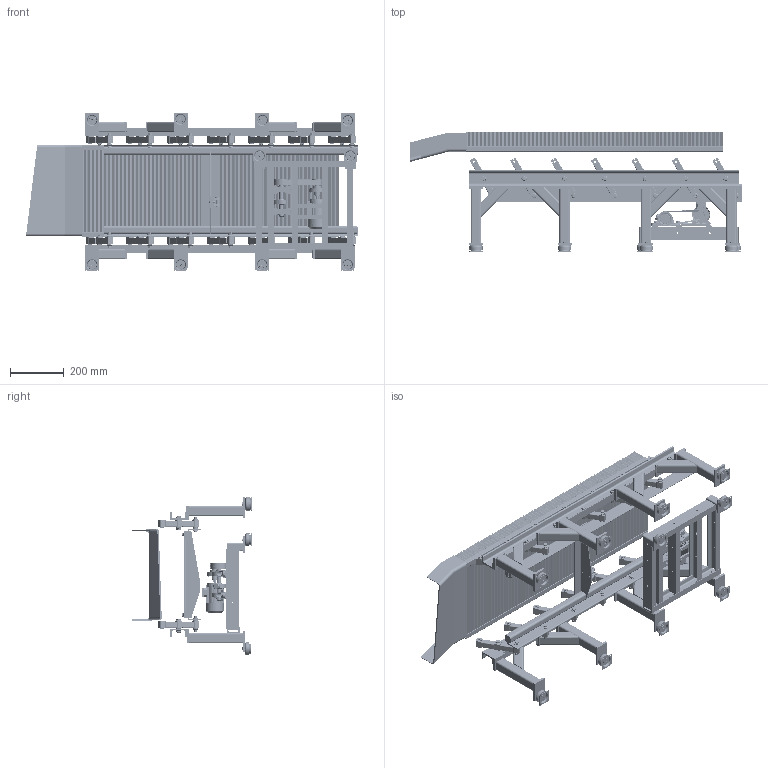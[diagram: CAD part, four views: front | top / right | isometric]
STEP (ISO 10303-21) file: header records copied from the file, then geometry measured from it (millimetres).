
FILE_DESCRIPTION(/* description */ (''),/* implementation_level */ '2;1');
FILE_NAME(/* name */ 'beltconveyor_a024_w300_l1000.stp',/* time_stamp */ '2024-12-16T22:04:19+08:00',/* author */ (''),/* organization */ (''),/* preprocessor_version */ 'ST-DEVELOPER v16.7',/* originating_system */ 'SIEMENS PLM Software NX 12.0',/* authorisation */ '');
FILE_SCHEMA (('AUTOMOTIVE_DESIGN { 1 0 10303 214 3 1 1 1 }'));
Products named in the file (89): Imported_34; Imported_74; Imported_56; Imported_63; Imported_5; Imported_4; Imported_41; Imported_75; Imported_33; Imported_31; Imported_27; Imported_82; Imported_28; Imported_57; Imported_20; Imported_64; Imported_43; Imported_69; Imported_25; Imported_83; Imported_60; Imported_10; 1_2; Imported_23; Imported_54; Imported_7; Imported_2; Imported_44; Imported_68; Imported_16; Imported_67; Imported_81; Imported_73; Imported_76; Imported_18; Imported_65; Imported_12; Imported_8; Imported_19; Imported_58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
Assembly tree (88 placements, depth 2):
  beltconveyor_a024_w300_l1000
    Imported_38
    Imported_40
    Imported_42
    Imported_66
    Imported_9
    Imported_61
    Imported_32
    Imported_39
    Imported_52
    Imported_26
    Imported_30
    Imported_71
    Imported_47
    1
    Imported_14
    Imported_70
    Imported_37
    Imported_79
    Imported_45
    Imported_17
    Imported_55
    Imported_13
    Imported_78
    Imported_29
    Imported_48
    Imported_80
    Imported_46
    1_1
    Imported_1
    Imported_6
    Imported_53
    Imported_15
    Imported_72
    Imported_35
    Imported_51
    Imported_22
    Imported_11
    Imported_24
    User Library-Gamak 90 L
    Imported_36
    Imported_77
    Imported_49
    Imported_3
    Imported_50
    Imported
    Imported_59
    Imported_62
    Imported_21
    Imported_58
    Imported_19
    Imported_8
    Imported_12
    Imported_65
    Imported_18
    Imported_76
    Imported_73
    Imported_81
    Imported_67
    Imported_16
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Bounding box: 1231.85 x 444.59 x 588.87 mm (x, y, z)
Volume: 12289655.9 mm3; surface area: 4743213.1 mm2
Topology: 122 solids, 122 shells, 15828 faces, 44133 edges, 28754 vertices
Faces by surface type: plane 8147, cylinder 5267, cone 1619, extrusion 369, torus 262, bspline 156, sphere 8
Entity records: 582871 total; most frequent: CARTESIAN_POINT 139829, ORIENTED_EDGE 88252, DIRECTION 81960, EDGE_CURVE 44126, AXIS2_PLACEMENT_3D 29274, VERTEX_POINT 28755, VECTOR 23412, LINE 23043
